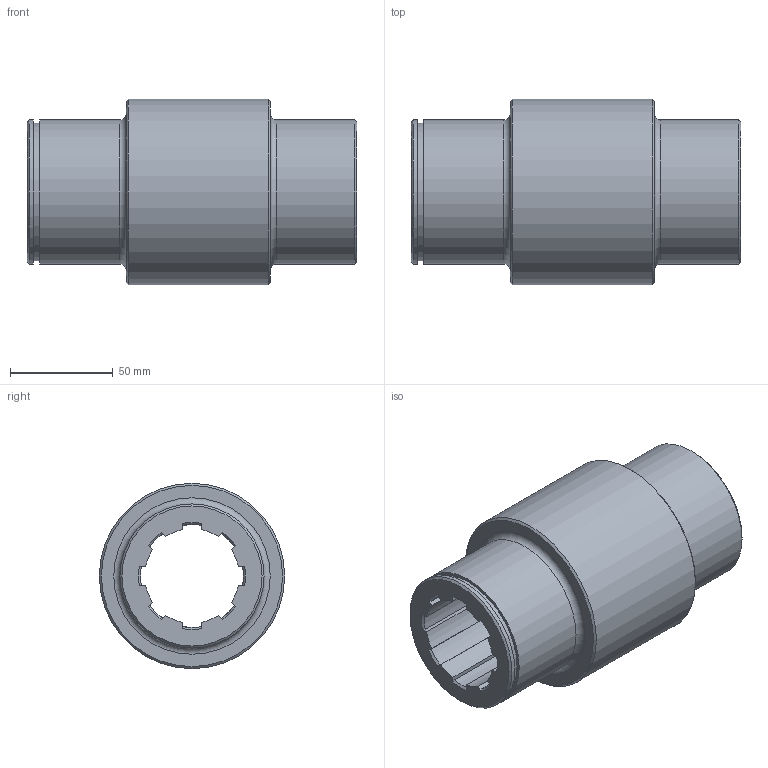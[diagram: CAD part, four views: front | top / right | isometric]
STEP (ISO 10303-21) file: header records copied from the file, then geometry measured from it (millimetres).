
FILE_DESCRIPTION(/* description */ (''),/* implementation_level */ '2;1');
FILE_NAME(/* name */ 'C:\Users\jbart\OneDrive\Plocha\Nová složka\3D modely - stp\Pouzdro.stp',/* time_stamp */ '2025-05-15T16:50:59+02:00',/* author */ ('jbart'),/* organization */ (''),/* preprocessor_version */ 'ST-DEVELOPER v18.1',/* originating_system */ 'Autodesk Inventor 2022',/* authorisation */ '');
FILE_SCHEMA (('AUTOMOTIVE_DESIGN { 1 0 10303 214 3 1 1 }'));
Length unit declared in the file: millimetre
Products named in the file (1): Pouzdro I
Bounding box: 160 x 90 x 90 mm (x, y, z)
Volume: 437398.4 mm3; surface area: 77901.3 mm2
Topology: 1 solids, 1 shells, 67 faces, 177 edges, 118 vertices
Faces by surface type: plane 27, cylinder 25, cone 13, torus 2
Full cylindrical faces by diameter (mm): 60 x1, 67 x1, 70 x3, 90 x1
Entity records: 2129 total; most frequent: CARTESIAN_POINT 399, DIRECTION 368, ORIENTED_EDGE 354, EDGE_CURVE 177, AXIS2_PLACEMENT_3D 141, VERTEX_POINT 118, LINE 86, VECTOR 86
